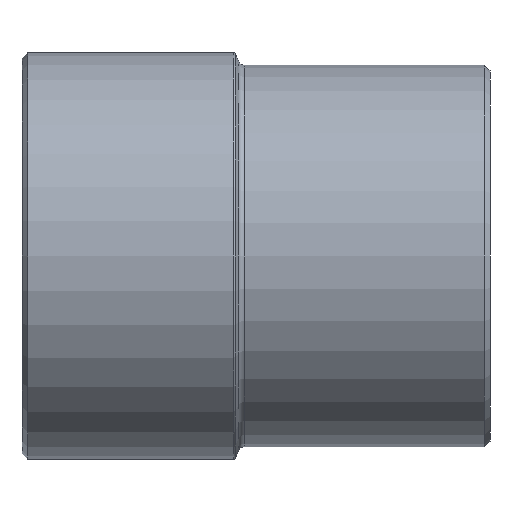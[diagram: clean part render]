
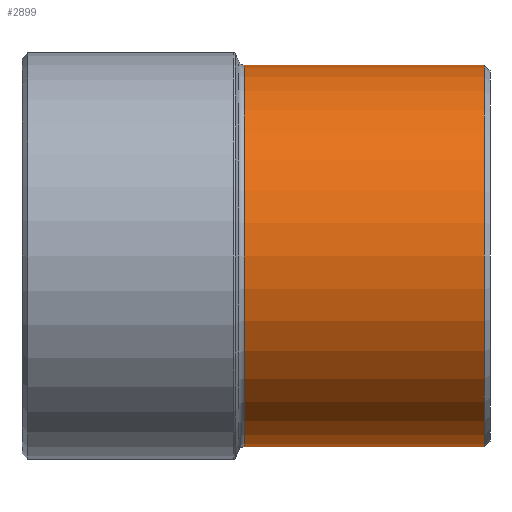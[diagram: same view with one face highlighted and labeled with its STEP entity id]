
A CAD part, front view. The second image highlights one B-rep face of the part: STEP entity #2899.
In plain terms, the highlighted cylindrical face has radius 67.25 mm (diameter 134.5 mm), a partial arc.
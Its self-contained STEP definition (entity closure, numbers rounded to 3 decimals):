
#1629 = ORIENTED_EDGE ( 'NONE', *, *, #1832, .F. ) ;
#1630 = ORIENTED_EDGE ( 'NONE', *, *, #2540, .T. ) ;
#1631 = ORIENTED_EDGE ( 'NONE', *, *, #1854, .T. ) ;
#1632 = ORIENTED_EDGE ( 'NONE', *, *, #2460, .T. ) ;
#1832 = EDGE_CURVE ( 'NONE', #17614, #17629, #11779, .T. ) ;
#1854 = EDGE_CURVE ( 'NONE', #13595, #17593, #2243, .T. ) ;
#2238 = CARTESIAN_POINT ( 'NONE',  ( 90.267, 0., -67.25 ) ) ;
#2243 = LINE ( 'NONE', #2238, #9236 ) ;
#2248 = DIRECTION ( 'NONE',  ( 1., 0., 0. ) ) ;
#2460 = EDGE_CURVE ( 'NONE', #17593, #17629, #16469, .T. ) ;
#2540 = EDGE_CURVE ( 'NONE', #17614, #13595, #8946, .T. ) ;
#2899 = ADVANCED_FACE ( 'NONE', ( #10779 ), #10783, .T. ) ;
#3980 = CARTESIAN_POINT ( 'NONE',  ( -0.718, 0., -67.25 ) ) ;
#5628 = EDGE_LOOP ( 'NONE', ( #1629, #1630, #1631, #1632 ) ) ;
#7949 = CARTESIAN_POINT ( 'NONE',  ( 84., 0., -67.25 ) ) ;
#7958 = CARTESIAN_POINT ( 'NONE',  ( -0.718, 0., 67.25 ) ) ;
#7973 = CARTESIAN_POINT ( 'NONE',  ( 84., 0., 67.25 ) ) ;
#8913 = AXIS2_PLACEMENT_3D ( 'NONE', #9789, #9790, #9791 ) ;
#8946 = CIRCLE ( 'NONE', #8913, 67.25 ) ;
#9216 = VECTOR ( 'NONE', #11783, 1000. ) ;
#9236 = VECTOR ( 'NONE', #2248, 1000. ) ;
#9789 = CARTESIAN_POINT ( 'NONE',  ( -0.718, 0., 0. ) ) ;
#9790 = DIRECTION ( 'NONE',  ( 1., 0., 0. ) ) ;
#9791 = DIRECTION ( 'NONE',  ( 0., 0., -1. ) ) ;
#10778 = DIRECTION ( 'NONE',  ( 1., 0., 0. ) ) ;
#10779 = FACE_OUTER_BOUND ( 'NONE', #5628, .T. ) ;
#10781 = CARTESIAN_POINT ( 'NONE',  ( 90.267, 0., 0. ) ) ;
#10783 = CYLINDRICAL_SURFACE ( 'NONE', #10946, 67.25 ) ;
#10784 = DIRECTION ( 'NONE',  ( 0., 0., -1. ) ) ;
#10946 = AXIS2_PLACEMENT_3D ( 'NONE', #10781, #10778, #10784 ) ;
#11439 = CARTESIAN_POINT ( 'NONE',  ( 84., 0., 0. ) ) ;
#11440 = DIRECTION ( 'NONE',  ( -1., 0., 0. ) ) ;
#11441 = DIRECTION ( 'NONE',  ( 0., 0., 1. ) ) ;
#11778 = CARTESIAN_POINT ( 'NONE',  ( 90.267, 0., 67.25 ) ) ;
#11779 = LINE ( 'NONE', #11778, #9216 ) ;
#11783 = DIRECTION ( 'NONE',  ( 1., 0., 0. ) ) ;
#13595 = VERTEX_POINT ( 'NONE', #3980 ) ;
#16376 = AXIS2_PLACEMENT_3D ( 'NONE', #11439, #11440, #11441 ) ;
#16469 = CIRCLE ( 'NONE', #16376, 67.25 ) ;
#17593 = VERTEX_POINT ( 'NONE', #7949 ) ;
#17614 = VERTEX_POINT ( 'NONE', #7958 ) ;
#17629 = VERTEX_POINT ( 'NONE', #7973 ) ;
